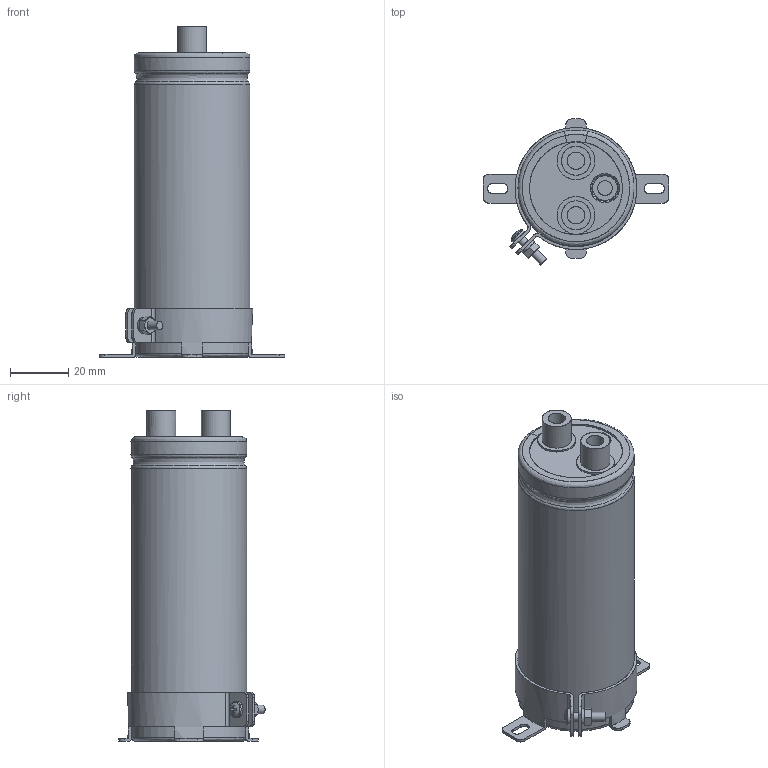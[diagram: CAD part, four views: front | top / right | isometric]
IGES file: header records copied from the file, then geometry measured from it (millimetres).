
Start section: JAMA-IS VERSION  1.0
Bounding box: 64 x 50.36 x 114 mm (x, y, z)
Surface area: 49513.4 mm2 (no closed solid volume)
Topology: 0 solids, 0 shells, 256 faces, 4273 edges, 4244 vertices
Faces by surface type: bspline 256
